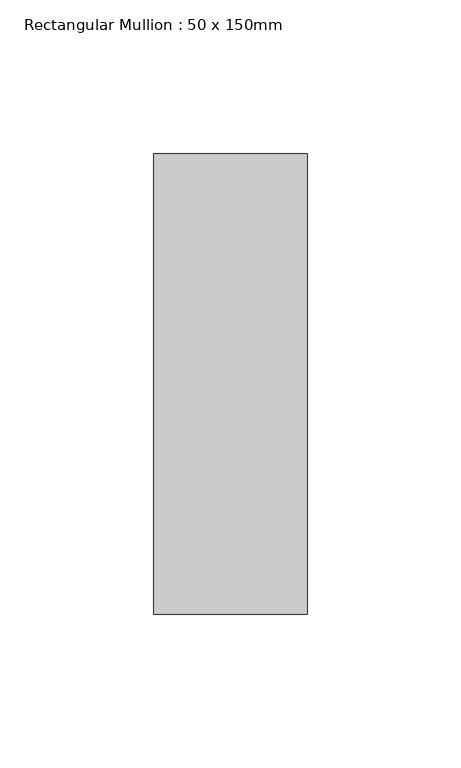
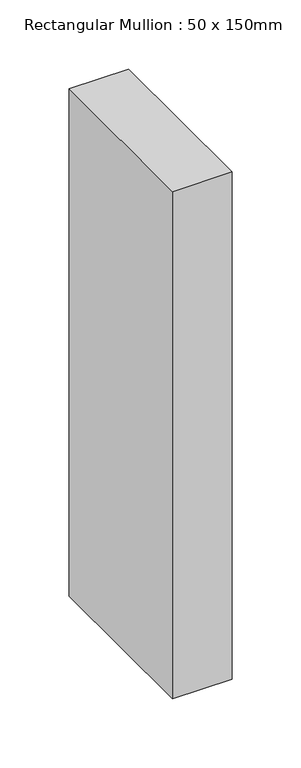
"""IFC4 building model written with IfcOpenShell, lengths in millimetres: member geometry, Rectangular Mullion : 50 x 150mm."""

import ifcopenshell
import ifcopenshell.guid

model = None  # the IFC model being written
_history = None  # IfcOwnerHistory: only IFC2X3 demands one
_inside = {}  # id of a spatial element -> (the spatial element, [elements in it])
_under = {}  # id of a project, library or spatial element -> (it, [spatial elements below it])
_declared = {}  # id of a project -> (the project, [libraries it declares])
_typed = {}  # id of a type object -> (the type object, [elements of that type])
_made_of = {}  # id of a material, layer set ... -> (it, [elements and type objects made of it])


def new_model(schema):
    """Start an empty IFC model of exactly this schema.

    Asked for "IFC4X3", IfcOpenShell would pick the latest addendum, in which some entities
    have other attributes; the version numbers below select the first issue.
    IFC2X3 requires an IfcOwnerHistory on every rooted entity: one is made here for all.
    """
    global model, _history
    if schema == "IFC4X3":
        model = ifcopenshell.file(schema_version=(4, 3, 0, 0))
    else:
        model = ifcopenshell.file(schema=schema)
    _inside.clear()
    _under.clear()
    _declared.clear()
    _typed.clear()
    _made_of.clear()
    _history = None
    if model.schema == "IFC2X3":
        org = make("IfcOrganization", Name="unknown")
        user = make(
            "IfcPersonAndOrganization",
            ThePerson=make("IfcPerson", FamilyName="unknown"),
            TheOrganization=org,
        )
        app = make(
            "IfcApplication",
            ApplicationDeveloper=org,
            Version="unknown",
            ApplicationFullName="unknown",
            ApplicationIdentifier="unknown",
        )
        _history = make(
            "IfcOwnerHistory",
            OwningUser=user,
            OwningApplication=app,
            ChangeAction="ADDED",
            CreationDate=0,
        )
    return model


def make(cls, **values):
    """One entity of the class cls with the attributes given. An attribute that is None is left unset."""
    return model.create_entity(
        cls, **{name: value for name, value in values.items() if value is not None}
    )


def rooted(cls, **values):
    """An entity with a GlobalId (a new one), such as an element, a storey or a relation."""
    return make(cls, GlobalId=ifcopenshell.guid.new(), OwnerHistory=_history, **values)


def si_unit(unit_type, name, prefix=None):
    """IfcSIUnit, for example si_unit("LENGTHUNIT", "METRE", prefix="MILLI")."""
    return make("IfcSIUnit", UnitType=unit_type, Prefix=prefix, Name=name)


def assignment(units):
    """IfcUnitAssignment: the units of a project."""
    return None if units is None else make("IfcUnitAssignment", Units=units)


def point(xyz):
    """IfcCartesianPoint."""
    return None if xyz is None else make("IfcCartesianPoint", Coordinates=xyz)


def direction(xyz):
    """IfcDirection."""
    return None if xyz is None else make("IfcDirection", DirectionRatios=xyz)


def frame(location, z_axis=None, x_axis=None):
    """IfcAxis2Placement3D, a coordinate frame: its origin and axes. An axis left out is left unset."""
    return make(
        "IfcAxis2Placement3D",
        Location=point(location),
        Axis=direction(z_axis),
        RefDirection=direction(x_axis),
    )


def origin():
    """The frame at (0, 0, 0) with its axes left unset."""
    return frame((0.0, 0.0, 0.0))


def place(relative_to, where):
    """IfcLocalPlacement: puts the frame where relative to a parent placement (None: the world)."""
    return make(
        "IfcLocalPlacement", PlacementRelTo=relative_to, RelativePlacement=where
    )


def context(
    kind, dimensions, precision=None, world=None, true_north=None, identifier=None
):
    """IfcGeometricRepresentationContext, for example the 3D "Model" context."""
    return make(
        "IfcGeometricRepresentationContext",
        ContextIdentifier=identifier,
        ContextType=kind,
        CoordinateSpaceDimension=dimensions,
        Precision=precision,
        WorldCoordinateSystem=world,
        TrueNorth=true_north,
    )


def project(units=None, contexts=None):
    """IfcProject with its units and contexts."""
    return rooted(
        "IfcProject",
        Name="project",
        RepresentationContexts=contexts,
        UnitsInContext=assignment(units),
    )


def spatial(cls, under=None, at=None, **own):
    """A site, building, storey or space (cls), placed at a placement, below another one or the project."""
    s = rooted(cls, ObjectPlacement=at, **own)
    if under is not None:
        _under.setdefault(under.id(), (under, []))[1].append(s)
    return s


def polyline(points):
    """IfcPolyline through the points."""
    return make("IfcPolyline", Points=[point(p) for p in points])


def outline(outer, holes=None, kind="AREA"):
    """IfcArbitraryClosedProfileDef: a profile drawn as a closed curve; with holes, ...WithVoids."""
    if holes is None:
        return make("IfcArbitraryClosedProfileDef", ProfileType=kind, OuterCurve=outer)
    return make(
        "IfcArbitraryProfileDefWithVoids",
        ProfileType=kind,
        OuterCurve=outer,
        InnerCurves=holes,
    )


def extrude(swept, where, along, depth):
    """IfcExtrudedAreaSolid: the profile swept, set in the frame where, extruded along a direction by depth."""
    return make(
        "IfcExtrudedAreaSolid",
        SweptArea=swept,
        Position=where,
        ExtrudedDirection=direction(along),
        Depth=depth,
    )


def shape(context_of_items, identifier, shape_type, items):
    """IfcShapeRepresentation: the items that make up one representation, for example the "Body"."""
    return make(
        "IfcShapeRepresentation",
        ContextOfItems=context_of_items,
        RepresentationIdentifier=identifier,
        RepresentationType=shape_type,
        Items=items,
    )


def source(mapping_origin, context_of_items, identifier, shape_type, items):
    """IfcRepresentationMap: a shape defined once, which mapped items show again and again."""
    return make(
        "IfcRepresentationMap",
        MappingOrigin=mapping_origin,
        MappedRepresentation=shape(context_of_items, identifier, shape_type, items),
    )


def transform(
    local_origin,
    x_axis=None,
    y_axis=None,
    z_axis=None,
    scale=None,
    scale2=None,
    scale3=None,
    uniform=True,
):
    """IfcCartesianTransformationOperator3D, or its non-uniform kind. x_axis, y_axis, z_axis: its Axis1, 2, 3."""
    if uniform:
        return make(
            "IfcCartesianTransformationOperator3D",
            Axis1=direction(x_axis),
            Axis2=direction(y_axis),
            LocalOrigin=point(local_origin),
            Scale=scale,
            Axis3=direction(z_axis),
        )
    return make(
        "IfcCartesianTransformationOperator3DnonUniform",
        Axis1=direction(x_axis),
        Axis2=direction(y_axis),
        LocalOrigin=point(local_origin),
        Scale=scale,
        Axis3=direction(z_axis),
        Scale2=scale2,
        Scale3=scale3,
    )


def mapped(mapping_source, mapping_target):
    """IfcMappedItem: shows the shape of a source again, moved by a transform."""
    return make(
        "IfcMappedItem", MappingSource=mapping_source, MappingTarget=mapping_target
    )


def made_of(thing, what):
    """Note that an element or type object is made of a material, layer set ...; save() writes the relation."""
    if what is not None:
        _made_of.setdefault(what.id(), (what, []))[1].append(thing)
    return thing


def element(
    cls,
    number,
    at=None,
    inside=None,
    cuts=None,
    type_object=None,
    material=None,
    context=None,
    identifier="Body",
    shape_type=None,
    held_by="IfcProductDefinitionShape",
    body=None,
    shapes=None,
    **own,
):
    """One element of the class cls, such as IfcWall. Its Tag is "e" and its number.

    at: its placement. inside: the storey or other place that contains it. cuts: it is an
    opening in that element (IfcRelVoidsElement). A single representation is given by context,
    identifier, shape_type and body (its items); several are given by shapes. held_by: the class
    of the entity that holds the representations. save() writes the other relations.
    """
    e = rooted(cls, Tag="e%d" % number, ObjectPlacement=at, **own)
    if body is not None:
        shapes = [shape(context, identifier, shape_type, body)]
    if shapes is not None:
        e.Representation = make(held_by, Representations=shapes)
    if inside is not None:
        _inside.setdefault(inside.id(), (inside, []))[1].append(e)
    if cuts is not None:
        rooted(
            "IfcRelVoidsElement", RelatingBuildingElement=cuts, RelatedOpeningElement=e
        )
    if type_object is not None:
        _typed.setdefault(type_object.id(), (type_object, []))[1].append(e)
    return made_of(e, material)


def aggregate(whole, parts):
    """IfcRelAggregates: a whole, such as a stair, and the parts it consists of."""
    return rooted("IfcRelAggregates", RelatingObject=whole, RelatedObjects=parts)


def save(model, path):
    """Write the relations noted so far, then the file.

    IfcRelAggregates (storeys below a building ...), IfcRelContainedInSpatialStructure (elements
    in a storey), IfcRelDefinesByType, IfcRelAssociatesMaterial and IfcRelDeclares: one each for
    every whole, place, type object, material and project.
    """
    for whole, parts in _under.values():
        aggregate(whole, parts)
    for where, things in _inside.values():
        rooted(
            "IfcRelContainedInSpatialStructure",
            RelatedElements=things,
            RelatingStructure=where,
        )
    for kind, things in _typed.values():
        rooted("IfcRelDefinesByType", RelatedObjects=things, RelatingType=kind)
    for what, things in _made_of.values():
        rooted("IfcRelAssociatesMaterial", RelatedObjects=things, RelatingMaterial=what)
    for by, libraries in _declared.values():
        rooted("IfcRelDeclares", RelatingContext=by, RelatedDefinitions=libraries)
    model.write(path)


def rectangular_mullion_50_x_150mm_3d11f3b6(model_context):
    return source(origin(), model_context, "Body", "SweptSolid", [
        extrude(outline(polyline([(25.0, 75.0), (25.0, -75.0), (-25.0, -75.0), (-25.0, 75.0), (25.0, 75.0)])), frame((0.0, 0.0, -448.4924443), z_axis=(0.0, 0.0, 1.0), x_axis=(1.0, 0.0, 0.0)), (0.0, 0.0, 1.0), 448.4924443),
    ])


if __name__ == "__main__":
    model = new_model("IFC4")
    model_context = context("Model", 3, world=origin())
    ifc_project = project(units=[si_unit("LENGTHUNIT", "METRE", prefix="MILLI")], contexts=[model_context])
    site = spatial("IfcSite", under=ifc_project)
    building = spatial("IfcBuilding", under=site)
    placement = place(None, origin())
    rectangular_mullion_50_x_150mm_shape = rectangular_mullion_50_x_150mm_3d11f3b6(model_context)
    element("IfcMember", 1, ObjectType="Rectangular Mullion : 50 x 150mm", at=placement, inside=building, context=model_context, shape_type="MappedRepresentation", body=[
        mapped(rectangular_mullion_50_x_150mm_shape, transform((0.0, 0.0, 0.0), x_axis=(1.0, 0.0, 0.0), y_axis=(0.0, 1.0, 0.0), z_axis=(0.0, 0.0, 1.0))),
    ])
    save(model, "model.ifc")
